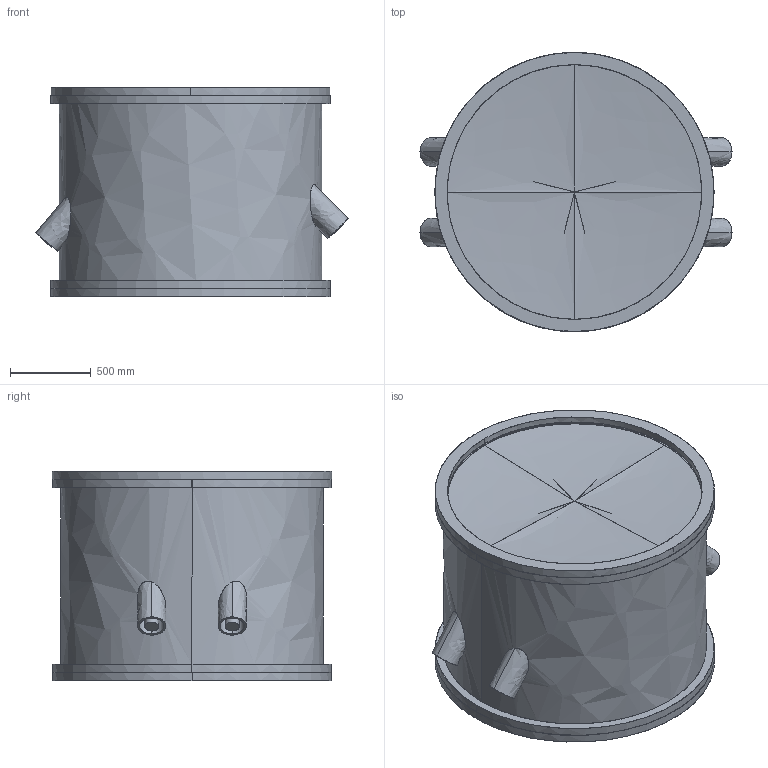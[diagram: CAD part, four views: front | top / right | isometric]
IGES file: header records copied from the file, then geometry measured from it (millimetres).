
Start section: Comment
Global section: file name: detector.iges; native system:  By UGS Corp.; preprocessor: XPlus GENERIC/IGES 3.0; author: Author; organization: Title; date: 20090504.152033; units: millimetre
Bounding box: 1936.37 x 1732.4 x 1300 mm (x, y, z)
Surface area: 35182268.6 mm2 (no closed solid volume)
Topology: 0 solids, 0 shells, 241 faces, 956 edges, 940 vertices
Faces by surface type: bspline 241
